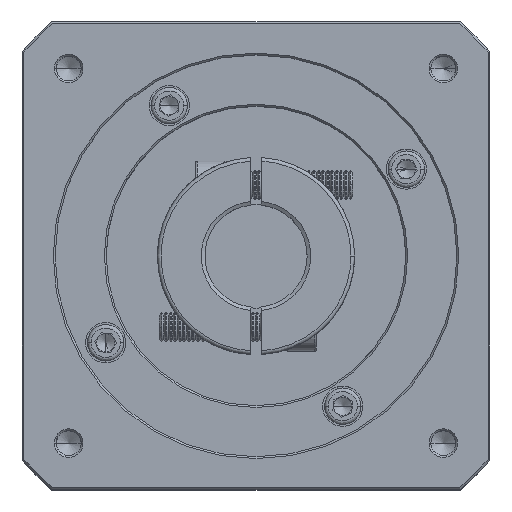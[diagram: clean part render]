
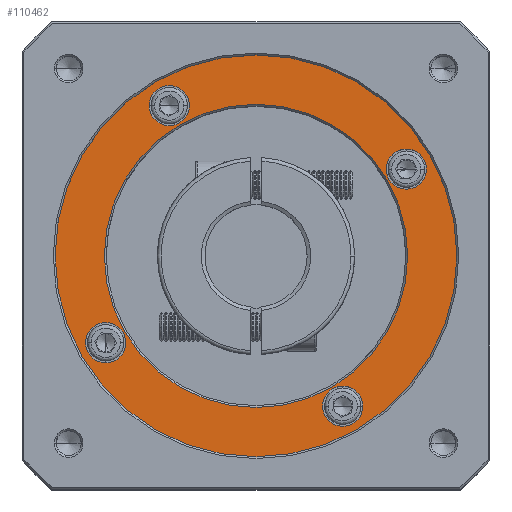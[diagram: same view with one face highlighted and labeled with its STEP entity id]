
A CAD part, top view. The second image highlights one B-rep face of the part: STEP entity #110462.
In plain terms, the highlighted planar face has unit normal (0, 0, 1).
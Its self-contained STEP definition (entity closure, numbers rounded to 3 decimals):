
#347 = CARTESIAN_POINT ( 'NONE',  ( 55.981, 136.177, 47.529 ) ) ;
#429 = CARTESIAN_POINT ( 'NONE',  ( 55.981, 136.177, 47.529 ) ) ;
#965 = DIRECTION ( 'NONE',  ( 1., 0., 0. ) ) ;
#1569 = EDGE_CURVE ( 'NONE', #50872, #46501, #118956, .T. ) ;
#2593 = CARTESIAN_POINT ( 'NONE',  ( 9.345, 112.427, 47.529 ) ) ;
#2709 = AXIS2_PLACEMENT_3D ( 'NONE', #19790, #85246, #29250 ) ;
#3143 = DIRECTION ( 'NONE',  ( 1., 0., 0. ) ) ;
#3884 = EDGE_CURVE ( 'NONE', #46501, #50872, #85018, .T. ) ;
#7082 = CARTESIAN_POINT ( 'NONE',  ( 85.231, 95.041, 47.529 ) ) ;
#7398 = DIRECTION ( 'NONE',  ( 1., 0., 0. ) ) ;
#7763 = DIRECTION ( 'NONE',  ( 0., 0., -1. ) ) ;
#9749 = DIRECTION ( 'NONE',  ( 1., 0., 0. ) ) ;
#9838 = DIRECTION ( 'NONE',  ( 1., 0., 0. ) ) ;
#10116 = ORIENTED_EDGE ( 'NONE', *, *, #34049, .T. ) ;
#12212 = DIRECTION ( 'NONE',  ( 0., 0., -1. ) ) ;
#12578 = EDGE_LOOP ( 'NONE', ( #10116, #38635 ) ) ;
#13458 = VERTEX_POINT ( 'NONE', #14132 ) ;
#14132 = CARTESIAN_POINT ( 'NONE',  ( 91.618, 159.927, 47.529 ) ) ;
#14632 = ORIENTED_EDGE ( 'NONE', *, *, #3884, .T. ) ;
#16629 = FACE_BOUND ( 'NONE', #29971, .T. ) ;
#18576 = VERTEX_POINT ( 'NONE', #87636 ) ;
#19790 = CARTESIAN_POINT ( 'NONE',  ( 79.731, 95.041, 47.529 ) ) ;
#21034 = CARTESIAN_POINT ( 'NONE',  ( 26.731, 177.313, 47.529 ) ) ;
#21492 = CIRCLE ( 'NONE', #79730, 41.5 ) ;
#22667 = CARTESIAN_POINT ( 'NONE',  ( 55.981, 136.177, 47.529 ) ) ;
#23710 = CARTESIAN_POINT ( 'NONE',  ( 20.345, 112.427, 47.529 ) ) ;
#25739 = EDGE_LOOP ( 'NONE', ( #45158, #72650 ) ) ;
#26824 = CARTESIAN_POINT ( 'NONE',  ( 102.618, 159.927, 47.529 ) ) ;
#27318 = DIRECTION ( 'NONE',  ( 0., 0., -1. ) ) ;
#28084 = VERTEX_POINT ( 'NONE', #95181 ) ;
#29250 = DIRECTION ( 'NONE',  ( 1., 0., 0. ) ) ;
#29971 = EDGE_LOOP ( 'NONE', ( #59115, #119009 ) ) ;
#32137 = DIRECTION ( 'NONE',  ( 1., 0., 0. ) ) ;
#34049 = EDGE_CURVE ( 'NONE', #52046, #111399, #98074, .T. ) ;
#36499 = VERTEX_POINT ( 'NONE', #81924 ) ;
#37856 = DIRECTION ( 'NONE',  ( 0., 0., -1. ) ) ;
#38635 = ORIENTED_EDGE ( 'NONE', *, *, #83436, .T. ) ;
#39294 = EDGE_CURVE ( 'NONE', #90501, #13458, #54865, .T. ) ;
#41608 = FACE_BOUND ( 'NONE', #76978, .T. ) ;
#41882 = DIRECTION ( 'NONE',  ( 0., 0., -1. ) ) ;
#43224 = CIRCLE ( 'NONE', #100896, 55. ) ;
#43813 = CARTESIAN_POINT ( 'NONE',  ( 55.981, 136.177, 47.529 ) ) ;
#44927 = AXIS2_PLACEMENT_3D ( 'NONE', #22667, #88158, #32137 ) ;
#45158 = ORIENTED_EDGE ( 'NONE', *, *, #81677, .T. ) ;
#46501 = VERTEX_POINT ( 'NONE', #7082 ) ;
#50872 = VERTEX_POINT ( 'NONE', #103309 ) ;
#52046 = VERTEX_POINT ( 'NONE', #80636 ) ;
#52384 = AXIS2_PLACEMENT_3D ( 'NONE', #429, #65926, #9838 ) ;
#53211 = DIRECTION ( 'NONE',  ( 1., 0., 0. ) ) ;
#53511 = CIRCLE ( 'NONE', #44927, 55. ) ;
#54346 = EDGE_CURVE ( 'NONE', #28084, #18576, #43224, .T. ) ;
#54865 = CIRCLE ( 'NONE', #77134, 5.5 ) ;
#57069 = DIRECTION ( 'NONE',  ( 0., 0., -1. ) ) ;
#59115 = ORIENTED_EDGE ( 'NONE', *, *, #114256, .T. ) ;
#59230 = DIRECTION ( 'NONE',  ( 0., 0., -1. ) ) ;
#59313 = ORIENTED_EDGE ( 'NONE', *, *, #1569, .T. ) ;
#60000 = AXIS2_PLACEMENT_3D ( 'NONE', #113212, #57069, #965 ) ;
#62768 = VERTEX_POINT ( 'NONE', #2593 ) ;
#63529 = DIRECTION ( 'NONE',  ( 0., 0., -1. ) ) ;
#63878 = CARTESIAN_POINT ( 'NONE',  ( 14.845, 112.427, 47.529 ) ) ;
#65731 = AXIS2_PLACEMENT_3D ( 'NONE', #83329, #27318, #92804 ) ;
#65843 = DIRECTION ( 'NONE',  ( 0., 0., 1. ) ) ;
#65926 = DIRECTION ( 'NONE',  ( 0., 0., 1. ) ) ;
#66431 = FACE_OUTER_BOUND ( 'NONE', #87743, .T. ) ;
#67853 = CIRCLE ( 'NONE', #76263, 5.5 ) ;
#68223 = CARTESIAN_POINT ( 'NONE',  ( 14.845, 112.427, 47.529 ) ) ;
#69379 = AXIS2_PLACEMENT_3D ( 'NONE', #93863, #37856, #103314 ) ;
#72650 = ORIENTED_EDGE ( 'NONE', *, *, #73614, .T. ) ;
#73212 = DIRECTION ( 'NONE',  ( 1., 0., 0. ) ) ;
#73614 = EDGE_CURVE ( 'NONE', #102379, #36499, #67853, .T. ) ;
#74578 = EDGE_LOOP ( 'NONE', ( #114306, #88174 ) ) ;
#74900 = PLANE ( 'NONE',  #52384 ) ;
#76263 = AXIS2_PLACEMENT_3D ( 'NONE', #119662, #63529, #7398 ) ;
#76978 = EDGE_LOOP ( 'NONE', ( #14632, #59313 ) ) ;
#77134 = AXIS2_PLACEMENT_3D ( 'NONE', #97905, #41882, #107326 ) ;
#77645 = DIRECTION ( 'NONE',  ( 1., 0., 0. ) ) ;
#78679 = AXIS2_PLACEMENT_3D ( 'NONE', #68223, #12212, #77645 ) ;
#79730 = AXIS2_PLACEMENT_3D ( 'NONE', #43813, #109283, #53211 ) ;
#80636 = CARTESIAN_POINT ( 'NONE',  ( 97.481, 136.177, 47.529 ) ) ;
#81677 = EDGE_CURVE ( 'NONE', #36499, #102379, #94027, .T. ) ;
#81924 = CARTESIAN_POINT ( 'NONE',  ( 37.731, 177.313, 47.529 ) ) ;
#82530 = ORIENTED_EDGE ( 'NONE', *, *, #54346, .T. ) ;
#83329 = CARTESIAN_POINT ( 'NONE',  ( 79.731, 95.041, 47.529 ) ) ;
#83436 = EDGE_CURVE ( 'NONE', #111399, #52046, #21492, .T. ) ;
#84897 = AXIS2_PLACEMENT_3D ( 'NONE', #63878, #7763, #73212 ) ;
#85003 = ORIENTED_EDGE ( 'NONE', *, *, #91691, .T. ) ;
#85018 = CIRCLE ( 'NONE', #65731, 5.5 ) ;
#85246 = DIRECTION ( 'NONE',  ( 0., 0., -1. ) ) ;
#87636 = CARTESIAN_POINT ( 'NONE',  ( 110.981, 136.177, 47.529 ) ) ;
#87743 = EDGE_LOOP ( 'NONE', ( #85003, #82530 ) ) ;
#88158 = DIRECTION ( 'NONE',  ( 0., 0., 1. ) ) ;
#88174 = ORIENTED_EDGE ( 'NONE', *, *, #97543, .T. ) ;
#90501 = VERTEX_POINT ( 'NONE', #26824 ) ;
#91373 = FACE_BOUND ( 'NONE', #25739, .T. ) ;
#91691 = EDGE_CURVE ( 'NONE', #18576, #28084, #53511, .T. ) ;
#92804 = DIRECTION ( 'NONE',  ( 1., 0., 0. ) ) ;
#93037 = EDGE_CURVE ( 'NONE', #62768, #96471, #118847, .T. ) ;
#93863 = CARTESIAN_POINT ( 'NONE',  ( 32.231, 177.313, 47.529 ) ) ;
#94027 = CIRCLE ( 'NONE', #69379, 5.5 ) ;
#95181 = CARTESIAN_POINT ( 'NONE',  ( 0.981, 136.177, 47.529 ) ) ;
#96471 = VERTEX_POINT ( 'NONE', #23710 ) ;
#97543 = EDGE_CURVE ( 'NONE', #13458, #90501, #109014, .T. ) ;
#97905 = CARTESIAN_POINT ( 'NONE',  ( 97.118, 159.927, 47.529 ) ) ;
#98074 = CIRCLE ( 'NONE', #100891, 41.5 ) ;
#100891 = AXIS2_PLACEMENT_3D ( 'NONE', #115406, #59230, #3143 ) ;
#100896 = AXIS2_PLACEMENT_3D ( 'NONE', #347, #65843, #9749 ) ;
#101258 = CIRCLE ( 'NONE', #84897, 5.5 ) ;
#102379 = VERTEX_POINT ( 'NONE', #21034 ) ;
#103309 = CARTESIAN_POINT ( 'NONE',  ( 74.231, 95.041, 47.529 ) ) ;
#103314 = DIRECTION ( 'NONE',  ( 1., 0., 0. ) ) ;
#107326 = DIRECTION ( 'NONE',  ( 1., 0., 0. ) ) ;
#109014 = CIRCLE ( 'NONE', #60000, 5.5 ) ;
#109283 = DIRECTION ( 'NONE',  ( 0., 0., -1. ) ) ;
#110462 = ADVANCED_FACE ( 'NONE', ( #66431, #119262, #116322, #91373, #41608, #16629 ), #74900, .T. ) ;
#111063 = CARTESIAN_POINT ( 'NONE',  ( 14.481, 136.177, 47.529 ) ) ;
#111399 = VERTEX_POINT ( 'NONE', #111063 ) ;
#113212 = CARTESIAN_POINT ( 'NONE',  ( 97.118, 159.927, 47.529 ) ) ;
#114256 = EDGE_CURVE ( 'NONE', #96471, #62768, #101258, .T. ) ;
#114306 = ORIENTED_EDGE ( 'NONE', *, *, #39294, .T. ) ;
#115406 = CARTESIAN_POINT ( 'NONE',  ( 55.981, 136.177, 47.529 ) ) ;
#116322 = FACE_BOUND ( 'NONE', #74578, .T. ) ;
#118847 = CIRCLE ( 'NONE', #78679, 5.5 ) ;
#118956 = CIRCLE ( 'NONE', #2709, 5.5 ) ;
#119009 = ORIENTED_EDGE ( 'NONE', *, *, #93037, .T. ) ;
#119262 = FACE_BOUND ( 'NONE', #12578, .T. ) ;
#119662 = CARTESIAN_POINT ( 'NONE',  ( 32.231, 177.313, 47.529 ) ) ;
